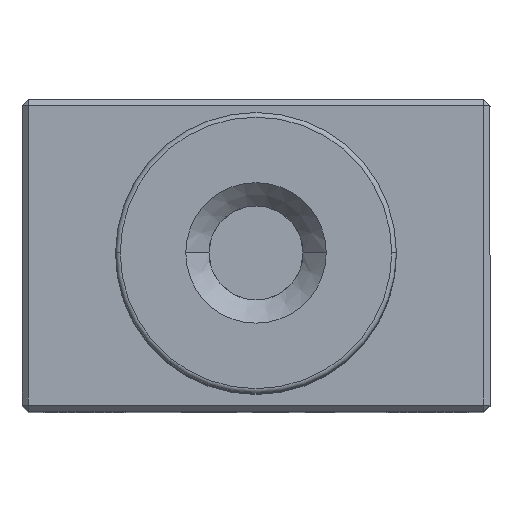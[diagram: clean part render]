
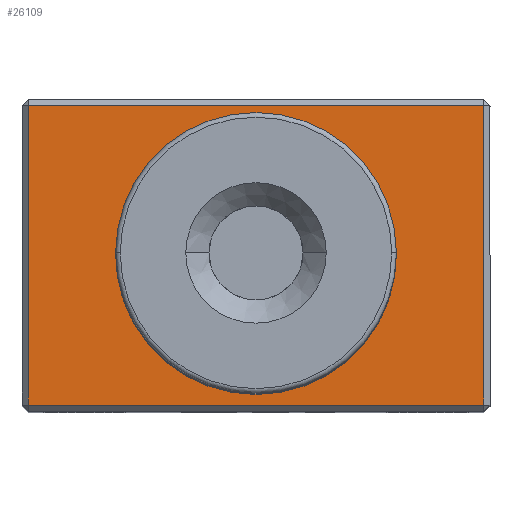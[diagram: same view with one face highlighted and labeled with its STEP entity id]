
A CAD part, top view. The second image highlights one B-rep face of the part: STEP entity #26109.
In plain terms, the highlighted planar face has unit normal (0, 0, 1).
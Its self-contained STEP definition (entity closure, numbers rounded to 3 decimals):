
#426 = EDGE_LOOP ( 'NONE', ( #10051, #11485 ) ) ;
#1544 = VERTEX_POINT ( 'NONE', #4040 ) ;
#1925 = VERTEX_POINT ( 'NONE', #13268 ) ;
#2367 = CIRCLE ( 'NONE', #15567, 8. ) ;
#2907 = EDGE_LOOP ( 'NONE', ( #7612, #17262, #5431, #4821 ) ) ;
#3346 = VECTOR ( 'NONE', #5725, 1000. ) ;
#4040 = CARTESIAN_POINT ( 'NONE',  ( -8., 0., 55. ) ) ;
#4575 = EDGE_CURVE ( 'NONE', #1925, #23443, #6664, .T. ) ;
#4696 = EDGE_CURVE ( 'NONE', #23443, #25186, #7104, .T. ) ;
#4783 = CIRCLE ( 'NONE', #21269, 8. ) ;
#4821 = ORIENTED_EDGE ( 'NONE', *, *, #4575, .T. ) ;
#5418 = FACE_OUTER_BOUND ( 'NONE', #2907, .T. ) ;
#5431 = ORIENTED_EDGE ( 'NONE', *, *, #27176, .T. ) ;
#5725 = DIRECTION ( 'NONE',  ( -1., 0., 0. ) ) ;
#6290 = VECTOR ( 'NONE', #27473, 1000. ) ;
#6664 = LINE ( 'NONE', #15675, #28450 ) ;
#7104 = LINE ( 'NONE', #14016, #6290 ) ;
#7612 = ORIENTED_EDGE ( 'NONE', *, *, #4696, .T. ) ;
#8018 = DIRECTION ( 'NONE',  ( -1., 0., 0. ) ) ;
#9418 = LINE ( 'NONE', #21069, #17399 ) ;
#10051 = ORIENTED_EDGE ( 'NONE', *, *, #18265, .T. ) ;
#10427 = DIRECTION ( 'NONE',  ( 1., 0., 0. ) ) ;
#10726 = DIRECTION ( 'NONE',  ( 0., 0., 1. ) ) ;
#10951 = DIRECTION ( 'NONE',  ( 1., 0., 0. ) ) ;
#11485 = ORIENTED_EDGE ( 'NONE', *, *, #16567, .T. ) ;
#11894 = DIRECTION ( 'NONE',  ( -1., 0., 0. ) ) ;
#12482 = DIRECTION ( 'NONE',  ( 0., 0., -1. ) ) ;
#13090 = CARTESIAN_POINT ( 'NONE',  ( 0., 0., 55. ) ) ;
#13268 = CARTESIAN_POINT ( 'NONE',  ( -14.6, -9.6, 55. ) ) ;
#14016 = CARTESIAN_POINT ( 'NONE',  ( 14.6, 10., 55. ) ) ;
#14099 = CARTESIAN_POINT ( 'NONE',  ( 0., 0., 55. ) ) ;
#14425 = FACE_BOUND ( 'NONE', #426, .T. ) ;
#15490 = AXIS2_PLACEMENT_3D ( 'NONE', #13090, #10726, #10427 ) ;
#15567 = AXIS2_PLACEMENT_3D ( 'NONE', #14099, #12482, #11894 ) ;
#15675 = CARTESIAN_POINT ( 'NONE',  ( 15., -9.6, 55. ) ) ;
#16567 = EDGE_CURVE ( 'NONE', #1544, #26296, #2367, .T. ) ;
#17081 = LINE ( 'NONE', #19147, #3346 ) ;
#17262 = ORIENTED_EDGE ( 'NONE', *, *, #17404, .T. ) ;
#17399 = VECTOR ( 'NONE', #27586, 1000. ) ;
#17404 = EDGE_CURVE ( 'NONE', #25186, #26875, #17081, .T. ) ;
#18265 = EDGE_CURVE ( 'NONE', #26296, #1544, #4783, .T. ) ;
#19147 = CARTESIAN_POINT ( 'NONE',  ( -15., 9.6, 55. ) ) ;
#19185 = CARTESIAN_POINT ( 'NONE',  ( -14.6, 9.6, 55. ) ) ;
#19521 = DIRECTION ( 'NONE',  ( 0., 0., -1. ) ) ;
#20447 = CARTESIAN_POINT ( 'NONE',  ( 8., 0., 55. ) ) ;
#20540 = CARTESIAN_POINT ( 'NONE',  ( 14.6, 9.6, 55. ) ) ;
#21069 = CARTESIAN_POINT ( 'NONE',  ( -14.6, -10., 55. ) ) ;
#21269 = AXIS2_PLACEMENT_3D ( 'NONE', #21728, #19521, #8018 ) ;
#21728 = CARTESIAN_POINT ( 'NONE',  ( 0., 0., 55. ) ) ;
#21930 = PLANE ( 'NONE',  #15490 ) ;
#23443 = VERTEX_POINT ( 'NONE', #27862 ) ;
#25186 = VERTEX_POINT ( 'NONE', #20540 ) ;
#26109 = ADVANCED_FACE ( 'NONE', ( #5418, #14425 ), #21930, .T. ) ;
#26296 = VERTEX_POINT ( 'NONE', #20447 ) ;
#26875 = VERTEX_POINT ( 'NONE', #19185 ) ;
#27176 = EDGE_CURVE ( 'NONE', #26875, #1925, #9418, .T. ) ;
#27473 = DIRECTION ( 'NONE',  ( 0., 1., 0. ) ) ;
#27586 = DIRECTION ( 'NONE',  ( 0., -1., 0. ) ) ;
#27862 = CARTESIAN_POINT ( 'NONE',  ( 14.6, -9.6, 55. ) ) ;
#28450 = VECTOR ( 'NONE', #10951, 1000. ) ;
